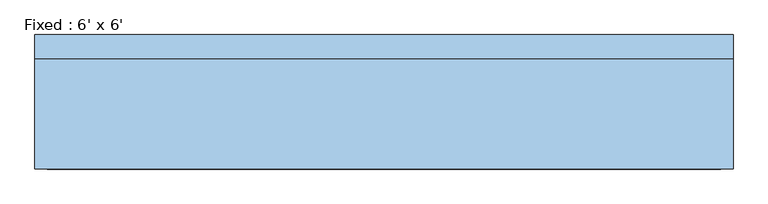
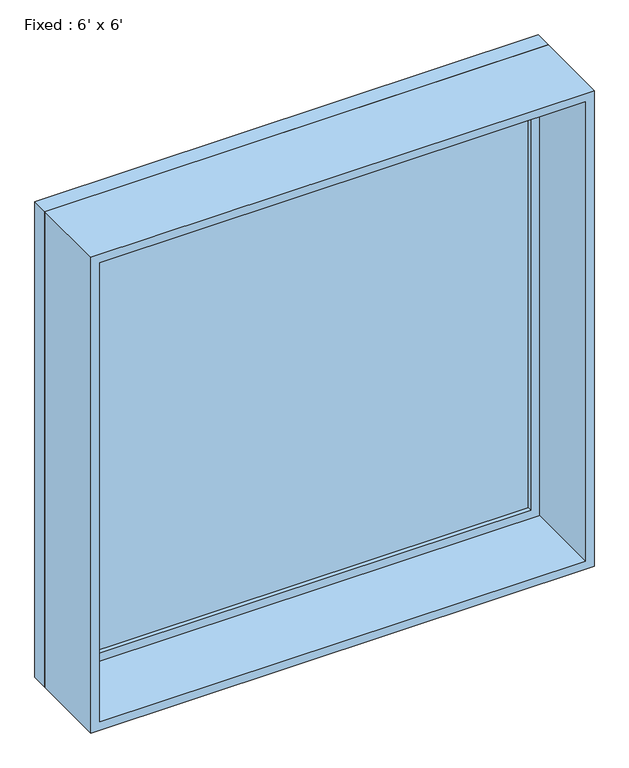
"""IFC4 building model written with IfcOpenShell, lengths in millimetres: window geometry, Fixed : 6' x 6'."""

from ifc_helpers import new_model, si_unit, frame, origin, place, context, project, spatial, polyline, outline, extrude, source, transform, mapped, element, save


def fixed_6_x_6_52427b03(model_context):
    return source(origin(), model_context, "Body", "SweptSolid", [
        extrude(outline(polyline([(812.8, 128.5875), (-889.0, 128.5875), (-889.0, 141.2875), (812.8, 141.2875), (812.8, 128.5875)])), frame((0.0, 0.0, 977.9), z_axis=(0.0, 0.0, 1.0), x_axis=(1.0, 0.0, 0.0)), (0.0, 0.0, 1.0), 1701.8),
        extrude(outline(polyline([(2724.15, -933.45), (933.45, -933.45), (933.45, 857.25), (2724.15, 857.25), (2724.15, -933.45)]), holes=[polyline([(2679.7, -889.0), (2679.7, 812.8), (977.9, 812.8), (977.9, -889.0), (2679.7, -889.0)])]), frame((0.0, 112.7125, 0.0), z_axis=(0.0, 1.0, 0.0), x_axis=(0.0, 0.0, 1.0)), (0.0, 0.0, 1.0), 44.45),
        extrude(outline(polyline([(2743.2, -952.5), (914.4, -952.5), (914.4, 876.3), (2743.2, 876.3), (2743.2, -952.5)]), holes=[polyline([(2711.45, -920.75), (2711.45, 844.55), (946.15, 844.55), (946.15, -920.75), (2711.45, -920.75)])]), frame((0.0, -176.2125, 0.0), z_axis=(0.0, 1.0, 0.0), x_axis=(0.0, 0.0, 1.0)), (0.0, 0.0, 1.0), 288.925),
        extrude(outline(polyline([(2743.2, 876.3), (2743.2, -952.5), (914.4, -952.5), (914.4, 876.3), (2743.2, 876.3)]), holes=[polyline([(2724.15, 857.25), (933.45, 857.25), (933.45, -933.45), (2724.15, -933.45), (2724.15, 857.25)])]), frame((0.0, 112.7125, 0.0), z_axis=(0.0, 1.0, 0.0), x_axis=(0.0, 0.0, 1.0)), (0.0, 0.0, 1.0), 63.5),
    ])


if __name__ == "__main__":
    model = new_model("IFC4")
    model_context = context("Model", 3, world=origin())
    ifc_project = project(units=[si_unit("LENGTHUNIT", "METRE", prefix="MILLI")], contexts=[model_context])
    site = spatial("IfcSite", under=ifc_project)
    building = spatial("IfcBuilding", under=site)
    placement = place(None, origin())
    fixed_6_x_6_shape = fixed_6_x_6_52427b03(model_context)
    element("IfcWindow", 1, ObjectType="Fixed : 6' x 6'", at=placement, inside=building, context=model_context, shape_type="MappedRepresentation", body=[
        mapped(fixed_6_x_6_shape, transform((0.0, 0.0, 0.0), x_axis=(1.0, 0.0, 0.0), y_axis=(0.0, 1.0, 0.0), z_axis=(0.0, 0.0, 1.0))),
    ])
    save(model, "model.ifc")
